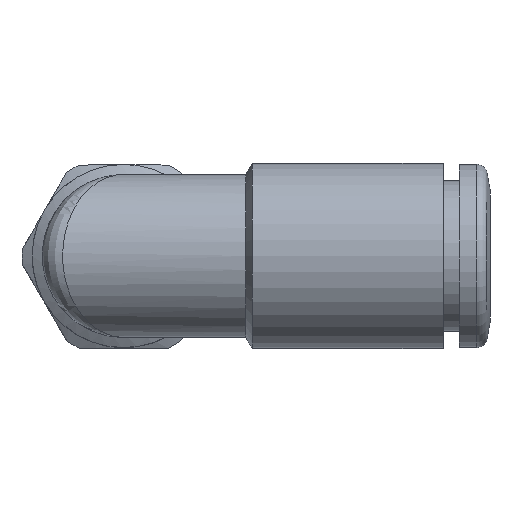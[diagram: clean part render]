
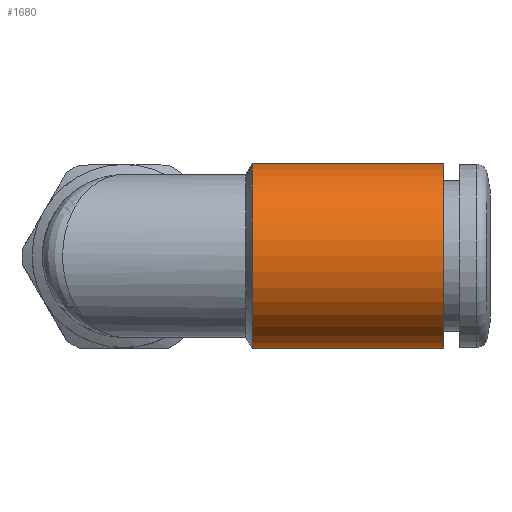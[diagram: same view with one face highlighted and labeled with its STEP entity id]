
A CAD part, top view. The second image highlights one B-rep face of the part: STEP entity #1680.
In plain terms, the highlighted cylindrical face has radius 4.55 mm (diameter 9.1 mm), a full revolution.
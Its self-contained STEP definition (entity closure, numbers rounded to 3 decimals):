
#1680=ADVANCED_FACE('', (#1690,#1700), #1710, .T.);
#6030=AXIS2_PLACEMENT_3D('Ax2Pl3d', #6040, #6050, #6060);
#6790=AXIS2_PLACEMENT_3D('Ax2Pl3d', #6800, #6810, #6820);
#6830=AXIS2_PLACEMENT_3D('Ax2Pl3d', #6840, #6850, #6860);
#6040=CARTESIAN_POINT('HicPkt', (26.388,13.592,
28.859));
#22430=CARTESIAN_POINT('', (26.388,13.592,33.409));
#6800=CARTESIAN_POINT('HicPkt', (17.005,13.592,
28.859));
#6840=CARTESIAN_POINT('HicPkt', (17.005,13.592,
28.859));
#22550=CARTESIAN_POINT('', (17.005,13.592,33.409));
#23520=CIRCLE('Circle', #6030, 4.55);
#23600=CIRCLE('Circle', #6830, 4.55);
#1710=CYLINDRICAL_SURFACE('Zyl', #6790, 4.55);
#6050=DIRECTION('Axis', (1.,0.,0.));
#6060=DIRECTION('RefDirection', (0.,0.,-1.));
#6810=DIRECTION('Axis', (1.,0.,0.));
#6820=DIRECTION('RefDirection', (0.,0.,-1.));
#6850=DIRECTION('Axis', (1.,0.,0.));
#6860=DIRECTION('RefDirection', (0.,0.,-1.));
#28400=EDGE_CURVE('', #28410, #28410, #23520, .T.);
#28740=EDGE_CURVE('', #28750, #28750, #23600, .T.);
#31820=EDGE_LOOP('Edge_loop', (#31830));
#31840=EDGE_LOOP('Edge_loop', (#31850));
#1700=FACE_BOUND('', #31840, .T.);
#1690=FACE_OUTER_BOUND('Face_outer_bound', #31820, .T.);
#31830=ORIENTED_EDGE('', *, *, #28400, .F.);
#31850=ORIENTED_EDGE('', *, *, #28740, .T.);
#28410=VERTEX_POINT('', #22430);
#28750=VERTEX_POINT('', #22550);
